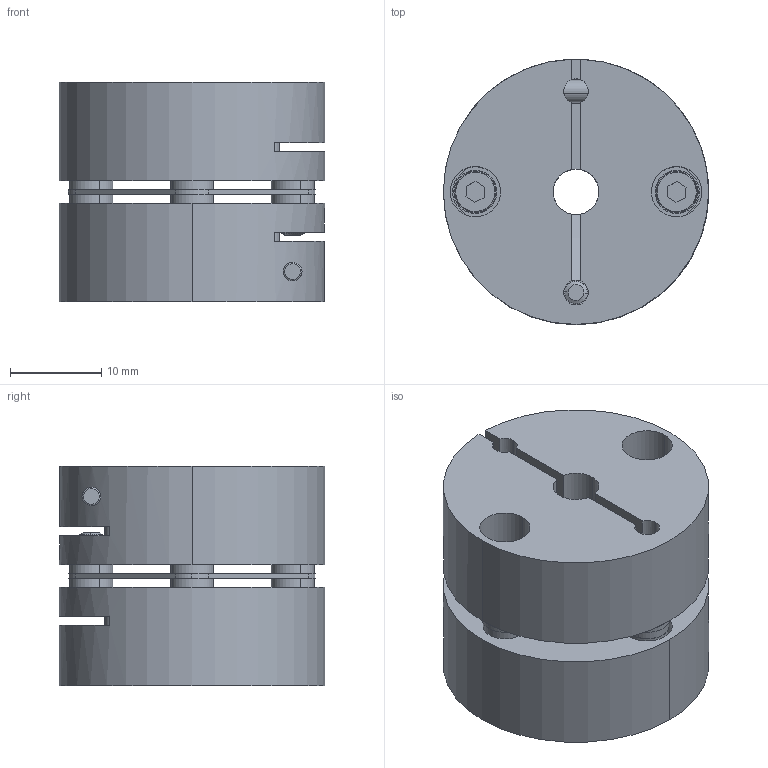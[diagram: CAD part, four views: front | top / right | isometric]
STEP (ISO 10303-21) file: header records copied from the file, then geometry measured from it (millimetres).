
FILE_DESCRIPTION (( 'STEP AP214' ), '1' );
FILE_NAME ('LC-A-025SA-5B-5B.STEP', '2019-09-12T07:15:43', ( 'admin' ), ( 'Microsoft' ), 'SwSTEP 2.0', 'SolidWorks 2016', '' );
FILE_SCHEMA (( 'AUTOMOTIVE_DESIGN' ));
Length unit declared in the file: millimetre
Products named in the file (1): LC-A-025SA-5B-5B
Bounding box: 29 x 29 x 24 mm (x, y, z)
Volume: 12075.7 mm3; surface area: 8996.9 mm2
Topology: 17 solids, 17 shells, 289 faces, 689 edges, 446 vertices
Faces by surface type: cylinder 139, plane 114, torus 24, cone 12
Entity records: 12206 total; most frequent: CARTESIAN_POINT 1753, DIRECTION 1583, ORIENTED_EDGE 1378, EDGE_CURVE 689, AXIS2_PLACEMENT_3D 628, VERTEX_POINT 446, EDGE_LOOP 359, CIRCLE 338
